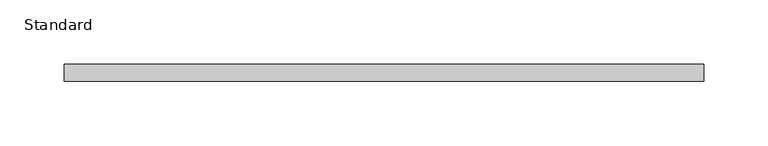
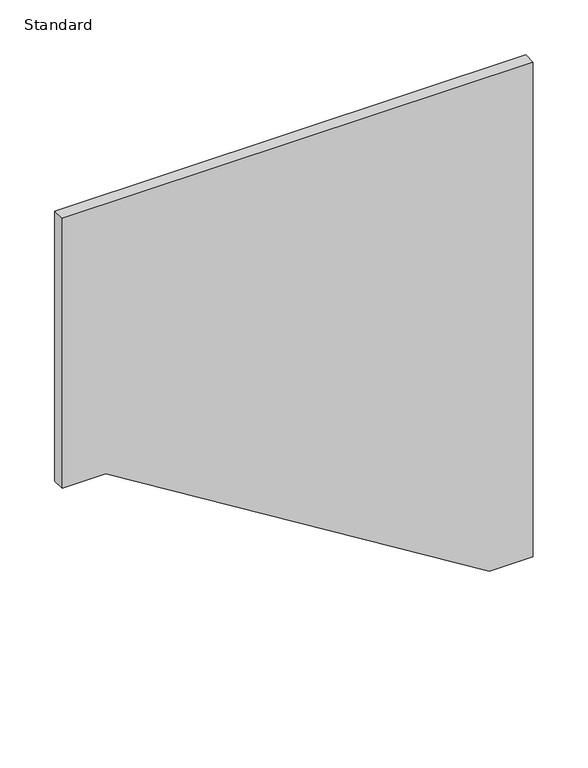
"""IFC4 building model written with IfcOpenShell, lengths in millimetres: furniture geometry, X_Partition-Compact Laminate-Duracube-Vanity End Panel : Standard."""

import ifcopenshell
import ifcopenshell.guid

model = None  # the IFC model being written
_history = None  # IfcOwnerHistory: only IFC2X3 demands one
_inside = {}  # id of a spatial element -> (the spatial element, [elements in it])
_under = {}  # id of a project, library or spatial element -> (it, [spatial elements below it])
_declared = {}  # id of a project -> (the project, [libraries it declares])
_typed = {}  # id of a type object -> (the type object, [elements of that type])
_made_of = {}  # id of a material, layer set ... -> (it, [elements and type objects made of it])


def new_model(schema):
    """Start an empty IFC model of exactly this schema.

    Asked for "IFC4X3", IfcOpenShell would pick the latest addendum, in which some entities
    have other attributes; the version numbers below select the first issue.
    IFC2X3 requires an IfcOwnerHistory on every rooted entity: one is made here for all.
    """
    global model, _history
    if schema == "IFC4X3":
        model = ifcopenshell.file(schema_version=(4, 3, 0, 0))
    else:
        model = ifcopenshell.file(schema=schema)
    _inside.clear()
    _under.clear()
    _declared.clear()
    _typed.clear()
    _made_of.clear()
    _history = None
    if model.schema == "IFC2X3":
        org = make("IfcOrganization", Name="unknown")
        user = make(
            "IfcPersonAndOrganization",
            ThePerson=make("IfcPerson", FamilyName="unknown"),
            TheOrganization=org,
        )
        app = make(
            "IfcApplication",
            ApplicationDeveloper=org,
            Version="unknown",
            ApplicationFullName="unknown",
            ApplicationIdentifier="unknown",
        )
        _history = make(
            "IfcOwnerHistory",
            OwningUser=user,
            OwningApplication=app,
            ChangeAction="ADDED",
            CreationDate=0,
        )
    return model


def make(cls, **values):
    """One entity of the class cls with the attributes given. An attribute that is None is left unset."""
    return model.create_entity(
        cls, **{name: value for name, value in values.items() if value is not None}
    )


def rooted(cls, **values):
    """An entity with a GlobalId (a new one), such as an element, a storey or a relation."""
    return make(cls, GlobalId=ifcopenshell.guid.new(), OwnerHistory=_history, **values)


def si_unit(unit_type, name, prefix=None):
    """IfcSIUnit, for example si_unit("LENGTHUNIT", "METRE", prefix="MILLI")."""
    return make("IfcSIUnit", UnitType=unit_type, Prefix=prefix, Name=name)


def assignment(units):
    """IfcUnitAssignment: the units of a project."""
    return None if units is None else make("IfcUnitAssignment", Units=units)


def point(xyz):
    """IfcCartesianPoint."""
    return None if xyz is None else make("IfcCartesianPoint", Coordinates=xyz)


def direction(xyz):
    """IfcDirection."""
    return None if xyz is None else make("IfcDirection", DirectionRatios=xyz)


def frame(location, z_axis=None, x_axis=None):
    """IfcAxis2Placement3D, a coordinate frame: its origin and axes. An axis left out is left unset."""
    return make(
        "IfcAxis2Placement3D",
        Location=point(location),
        Axis=direction(z_axis),
        RefDirection=direction(x_axis),
    )


def origin():
    """The frame at (0, 0, 0) with its axes left unset."""
    return frame((0.0, 0.0, 0.0))


def place(relative_to, where):
    """IfcLocalPlacement: puts the frame where relative to a parent placement (None: the world)."""
    return make(
        "IfcLocalPlacement", PlacementRelTo=relative_to, RelativePlacement=where
    )


def context(
    kind, dimensions, precision=None, world=None, true_north=None, identifier=None
):
    """IfcGeometricRepresentationContext, for example the 3D "Model" context."""
    return make(
        "IfcGeometricRepresentationContext",
        ContextIdentifier=identifier,
        ContextType=kind,
        CoordinateSpaceDimension=dimensions,
        Precision=precision,
        WorldCoordinateSystem=world,
        TrueNorth=true_north,
    )


def project(units=None, contexts=None):
    """IfcProject with its units and contexts."""
    return rooted(
        "IfcProject",
        Name="project",
        RepresentationContexts=contexts,
        UnitsInContext=assignment(units),
    )


def spatial(cls, under=None, at=None, **own):
    """A site, building, storey or space (cls), placed at a placement, below another one or the project."""
    s = rooted(cls, ObjectPlacement=at, **own)
    if under is not None:
        _under.setdefault(under.id(), (under, []))[1].append(s)
    return s


def polyline(points):
    """IfcPolyline through the points."""
    return make("IfcPolyline", Points=[point(p) for p in points])


def outline(outer, holes=None, kind="AREA"):
    """IfcArbitraryClosedProfileDef: a profile drawn as a closed curve; with holes, ...WithVoids."""
    if holes is None:
        return make("IfcArbitraryClosedProfileDef", ProfileType=kind, OuterCurve=outer)
    return make(
        "IfcArbitraryProfileDefWithVoids",
        ProfileType=kind,
        OuterCurve=outer,
        InnerCurves=holes,
    )


def extrude(swept, where, along, depth):
    """IfcExtrudedAreaSolid: the profile swept, set in the frame where, extruded along a direction by depth."""
    return make(
        "IfcExtrudedAreaSolid",
        SweptArea=swept,
        Position=where,
        ExtrudedDirection=direction(along),
        Depth=depth,
    )


def shape(context_of_items, identifier, shape_type, items):
    """IfcShapeRepresentation: the items that make up one representation, for example the "Body"."""
    return make(
        "IfcShapeRepresentation",
        ContextOfItems=context_of_items,
        RepresentationIdentifier=identifier,
        RepresentationType=shape_type,
        Items=items,
    )


def source(mapping_origin, context_of_items, identifier, shape_type, items):
    """IfcRepresentationMap: a shape defined once, which mapped items show again and again."""
    return make(
        "IfcRepresentationMap",
        MappingOrigin=mapping_origin,
        MappedRepresentation=shape(context_of_items, identifier, shape_type, items),
    )


def transform(
    local_origin,
    x_axis=None,
    y_axis=None,
    z_axis=None,
    scale=None,
    scale2=None,
    scale3=None,
    uniform=True,
):
    """IfcCartesianTransformationOperator3D, or its non-uniform kind. x_axis, y_axis, z_axis: its Axis1, 2, 3."""
    if uniform:
        return make(
            "IfcCartesianTransformationOperator3D",
            Axis1=direction(x_axis),
            Axis2=direction(y_axis),
            LocalOrigin=point(local_origin),
            Scale=scale,
            Axis3=direction(z_axis),
        )
    return make(
        "IfcCartesianTransformationOperator3DnonUniform",
        Axis1=direction(x_axis),
        Axis2=direction(y_axis),
        LocalOrigin=point(local_origin),
        Scale=scale,
        Axis3=direction(z_axis),
        Scale2=scale2,
        Scale3=scale3,
    )


def mapped(mapping_source, mapping_target):
    """IfcMappedItem: shows the shape of a source again, moved by a transform."""
    return make(
        "IfcMappedItem", MappingSource=mapping_source, MappingTarget=mapping_target
    )


def made_of(thing, what):
    """Note that an element or type object is made of a material, layer set ...; save() writes the relation."""
    if what is not None:
        _made_of.setdefault(what.id(), (what, []))[1].append(thing)
    return thing


def element(
    cls,
    number,
    at=None,
    inside=None,
    cuts=None,
    type_object=None,
    material=None,
    context=None,
    identifier="Body",
    shape_type=None,
    held_by="IfcProductDefinitionShape",
    body=None,
    shapes=None,
    **own,
):
    """One element of the class cls, such as IfcWall. Its Tag is "e" and its number.

    at: its placement. inside: the storey or other place that contains it. cuts: it is an
    opening in that element (IfcRelVoidsElement). A single representation is given by context,
    identifier, shape_type and body (its items); several are given by shapes. held_by: the class
    of the entity that holds the representations. save() writes the other relations.
    """
    e = rooted(cls, Tag="e%d" % number, ObjectPlacement=at, **own)
    if body is not None:
        shapes = [shape(context, identifier, shape_type, body)]
    if shapes is not None:
        e.Representation = make(held_by, Representations=shapes)
    if inside is not None:
        _inside.setdefault(inside.id(), (inside, []))[1].append(e)
    if cuts is not None:
        rooted(
            "IfcRelVoidsElement", RelatingBuildingElement=cuts, RelatedOpeningElement=e
        )
    if type_object is not None:
        _typed.setdefault(type_object.id(), (type_object, []))[1].append(e)
    return made_of(e, material)


def aggregate(whole, parts):
    """IfcRelAggregates: a whole, such as a stair, and the parts it consists of."""
    return rooted("IfcRelAggregates", RelatingObject=whole, RelatedObjects=parts)


def save(model, path):
    """Write the relations noted so far, then the file.

    IfcRelAggregates (storeys below a building ...), IfcRelContainedInSpatialStructure (elements
    in a storey), IfcRelDefinesByType, IfcRelAssociatesMaterial and IfcRelDeclares: one each for
    every whole, place, type object, material and project.
    """
    for whole, parts in _under.values():
        aggregate(whole, parts)
    for where, things in _inside.values():
        rooted(
            "IfcRelContainedInSpatialStructure",
            RelatedElements=things,
            RelatingStructure=where,
        )
    for kind, things in _typed.values():
        rooted("IfcRelDefinesByType", RelatedObjects=things, RelatingType=kind)
    for what, things in _made_of.values():
        rooted("IfcRelAssociatesMaterial", RelatedObjects=things, RelatingMaterial=what)
    for by, libraries in _declared.values():
        rooted("IfcRelDeclares", RelatingContext=by, RelatedDefinitions=libraries)
    model.write(path)


def standard_955915dd(model_context):
    return source(origin(), model_context, "Body", "SweptSolid", [
        extrude(outline(polyline([(537.0, -203.0496736), (537.0, -157.0496736), (287.0, 246.4503264), (287.0, 292.4503264), (837.0, 292.4503264), (837.0, -203.0496736), (537.0, -203.0496736)])), frame((0.0, -13.0, 0.0), z_axis=(0.0, 1.0, 0.0), x_axis=(0.0, 0.0, 1.0)), (0.0, 0.0, 1.0), 13.0),
    ])


if __name__ == "__main__":
    model = new_model("IFC4")
    model_context = context("Model", 3, world=origin())
    ifc_project = project(units=[si_unit("LENGTHUNIT", "METRE", prefix="MILLI")], contexts=[model_context])
    site = spatial("IfcSite", under=ifc_project)
    building = spatial("IfcBuilding", under=site)
    placement = place(None, origin())
    standard_shape = standard_955915dd(model_context)
    element("IfcFurniture", 1, ObjectType="X_Partition-Compact Laminate-Duracube-Vanity End Panel : Standard", at=placement, inside=building, context=model_context, shape_type="MappedRepresentation", body=[
        mapped(standard_shape, transform((0.0, 0.0, 0.0), x_axis=(1.0, 0.0, 0.0), y_axis=(0.0, 1.0, 0.0), z_axis=(0.0, 0.0, 1.0))),
    ])
    save(model, "model.ifc")
